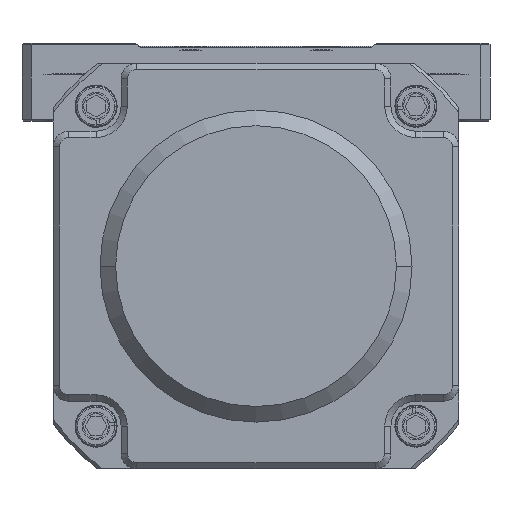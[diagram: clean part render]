
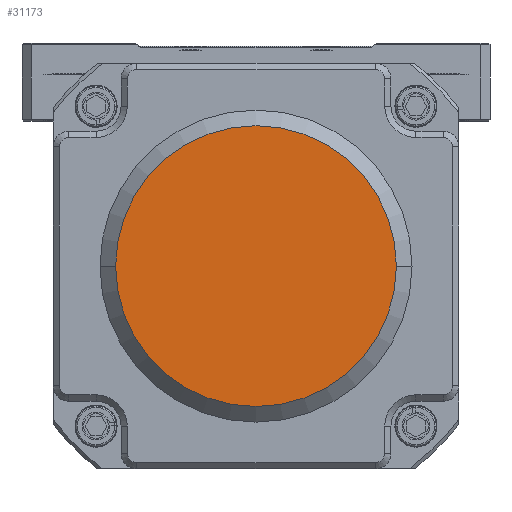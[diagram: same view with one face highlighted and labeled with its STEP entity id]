
A CAD part, front view. The second image highlights one B-rep face of the part: STEP entity #31173.
In plain terms, the highlighted planar face has unit normal (0, -1, 0) as drawn and (0, 1, 0) by its records, which use the part's own axes.
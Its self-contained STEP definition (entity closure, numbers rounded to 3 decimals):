
#29094=CARTESIAN_POINT('',(0.,166.,0.));
#29095=DIRECTION('',(0.,1.,0.));
#29096=DIRECTION('',(-1.,0.,0.));
#29097=AXIS2_PLACEMENT_3D('',#29094,#29095,#29096);
#29099=CARTESIAN_POINT('',(0.,166.,0.));
#29100=DIRECTION('',(0.,1.,0.));
#29101=DIRECTION('',(1.,0.,0.));
#29102=AXIS2_PLACEMENT_3D('',#29099,#29100,#29101);
#29719=CARTESIAN_POINT('',(-45.,166.,0.));
#29720=CARTESIAN_POINT('',(45.,166.,0.));
#29721=VERTEX_POINT('',#29719);
#29722=VERTEX_POINT('',#29720);
#31163=CARTESIAN_POINT('',(0.,166.,0.));
#31164=DIRECTION('',(0.,1.,0.));
#31165=DIRECTION('',(1.,0.,0.));
#31166=AXIS2_PLACEMENT_3D('',#31163,#31164,#31165);
#31167=PLANE('',#31166);
#31169=ORIENTED_EDGE('',*,*,#31168,.F.);
#31170=ORIENTED_EDGE('',*,*,#31153,.F.);
#31171=EDGE_LOOP('',(#31169,#31170));
#31172=FACE_OUTER_BOUND('',#31171,.F.);
#31173=ADVANCED_FACE('',(#31172),#31167,.T.);
#29098=CIRCLE('',#29097,45.);
#29103=CIRCLE('',#29102,45.);
#31153=EDGE_CURVE('',#29722,#29721,#29103,.T.);
#31168=EDGE_CURVE('',#29721,#29722,#29098,.T.);
